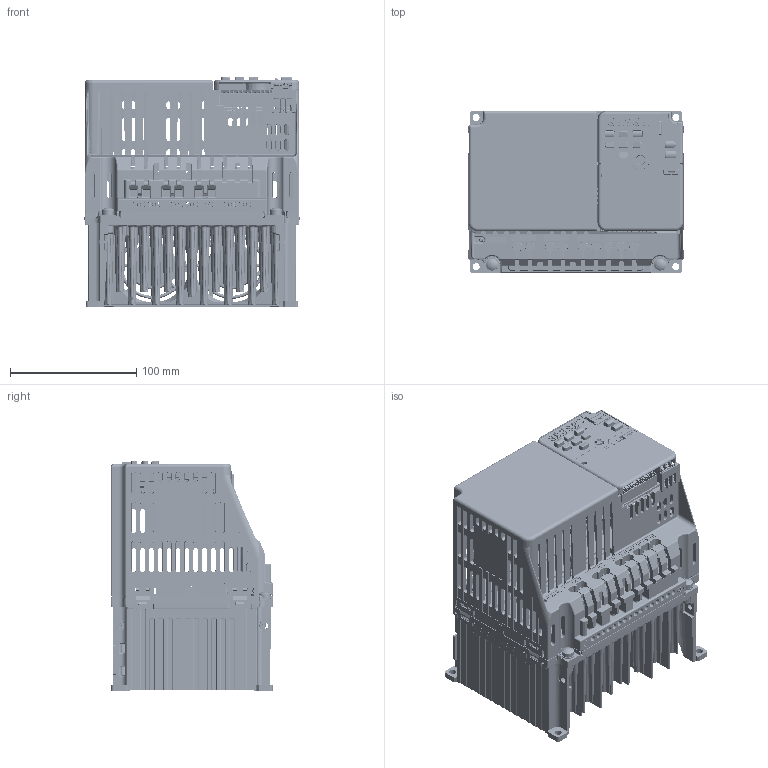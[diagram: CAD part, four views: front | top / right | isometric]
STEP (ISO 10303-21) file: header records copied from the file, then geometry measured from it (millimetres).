
FILE_DESCRIPTION((''),'2;1');
FILE_NAME('GA500_STD_FRAME_V4-A_ASM','2019-03-08T',('jam'),('YASKAWA ELECTRIC CORCORATION'),'PRO/ENGINEER BY PARAMETRIC TECHNOLOGY CORPORATION, 2015440','PRO/ENGINEER BY PARAMETRIC TECHNOLOGY CORPORATION, 2015440','');
FILE_SCHEMA(('CONFIG_CONTROL_DESIGN'));
Products named in the file (122): MAP_KIPR-GA50_Q_B018_1; 400-104-197_AF0_1; SCAT41166_1; 400-104-231_AF0_1; 2410ML-05W-B30-BQ7_1; CVST31335_1; 400-104-273-01B-1_6PCB_AF0_1; MKDS10HV_2-ZB-10P16_1; MKDS10HV_5-ZB-10P16_1; KTP761363_6PCB_AF0_ASM_1_ASM; 400-104-158_AF0_1; 400-104-023-01F-5_1; 95003-2884_1; B12B-PASK-1_1; MANIFOLD_SOLID_BREP_528374; MANIFOLD_SOLID_BREP_528525; MANIFOLD_SOLID_BREP_528676; MANIFOLD_SOLID_BREP_528827; MANIFOLD_SOLID_BREP_528980; MANIFOLD_SOLID_BREP_529131; MANIFOLD_SOLID_BREP_529282; MANIFOLD_SOLID_BREP_529433; MANIFOLD_SOLID_BREP_529584; MANIFOLD_SOLID_BREP_529735; MANIFOLD_SOLID_BREP_529886; 1734753-1_AF1_1_ASM; MANIFOLD_SOLID_BREP_539805; MANIFOLD_SOLID_BREP_539989; MANIFOLD_SOLID_BREP_540173; MANIFOLD_SOLID_BREP_540357; MANIFOLD_SOLID_BREP_540541; MANIFOLD_SOLID_BREP_540692; MANIFOLD_SOLID_BREP_540843; MANIFOLD_SOLID_BREP_540994; MANIFOLD_SOLID_BREP_541145; MANIFOLD_SOLID_BREP_541296; MANIFOLD_SOLID_BREP_541447; MANIFOLD_SOLID_BREP_541598; MANIFOLD_SOLID_BREP_541749; MANIFOLD_SOLID_BREP_541900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
Assembly tree (125 placements, depth 6):
  GA500_STD_FRAME_V4-A_ASM
    KIPR-GA50_Q_B018_ASM_1_ASM
      MAP_KIPR-GA50_Q_B018_1
      400-104-197_AF0_1
      SCAT41166_1  x2
      400-104-231_AF0_1
      2410ML-05W-B30-BQ7_1  x2
      CVST31335_1
      KTP761363_6PCB_AF0_ASM_1_ASM
        400-104-273-01B-1_6PCB_AF0_1
        MKDS10HV_2-ZB-10P16_1  x2
        MKDS10HV_5-ZB-10P16_1
      400-104-158_AF0_1
      KTC750050-SXXXX_ASM_1_ASM
        400-104-023-01F-5_1
        95003-2884_1
        B12B-PASK-1_1
        1734753-1_AF1_1_ASM
          MANIFOLD_SOLID_BREP_528374
          MANIFOLD_SOLID_BREP_528525
          MANIFOLD_SOLID_BREP_528676
          MANIFOLD_SOLID_BREP_528827
          MANIFOLD_SOLID_BREP_528980
          MANIFOLD_SOLID_BREP_529131
          MANIFOLD_SOLID_BREP_529282
          MANIFOLD_SOLID_BREP_529433
          MANIFOLD_SOLID_BREP_529584
          MANIFOLD_SOLID_BREP_529735
          MANIFOLD_SOLID_BREP_529886
        DHB-PD20-S131N-4P9_AF1_1_ASM
          MANIFOLD_SOLID_BREP_539805
          MANIFOLD_SOLID_BREP_539989
          MANIFOLD_SOLID_BREP_540173
          MANIFOLD_SOLID_BREP_540357
          MANIFOLD_SOLID_BREP_540541
          MANIFOLD_SOLID_BREP_540692
          MANIFOLD_SOLID_BREP_540843
          MANIFOLD_SOLID_BREP_540994
          MANIFOLD_SOLID_BREP_541145
          MANIFOLD_SOLID_BREP_541296
          MANIFOLD_SOLID_BREP_541447
          MANIFOLD_SOLID_BREP_541598
          MANIFOLD_SOLID_BREP_541749
          MANIFOLD_SOLID_BREP_541900
          MANIFOLD_SOLID_BREP_542051
          MANIFOLD_SOLID_BREP_542202
          MANIFOLD_SOLID_BREP_542353
          MANIFOLD_SOLID_BREP_542504
          MANIFOLD_SOLID_BREP_542655
          MANIFOLD_SOLID_BREP_542806
          MANIFOLD_SOLID_BREP_542957
          MANIFOLD_SOLID_BREP_543108
          MANIFOLD_SOLID_BREP_543259
          MANIFOLD_SOLID_BREP_543410
          MANIFOLD_SOLID_BREP_543561
        KARI_SPTA1_9-3P5_AF0_1_ASM
          MANIFOLD_SOLID_BREP_550128
          MANIFOLD_SOLID_BREP_550279
          MANIFOLD_SOLID_BREP_550430
          MANIFOLD_SOLID_BREP_550581
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Bounding box: 170.19 x 128.4 x 182.75 mm (x, y, z)
Volume: 875084 mm3; surface area: 587869.1 mm2
Topology: 111 solids, 112 shells, 19297 faces, 52702 edges, 33684 vertices
Faces by surface type: plane 11532, cylinder 3892, bspline 1438, cone 1297, torus 863, sphere 275
Entity records: 676070 total; most frequent: CARTESIAN_POINT 205812, ORIENTED_EDGE 103040, DIRECTION 89406, EDGE_CURVE 51520, VECTOR 35132, LINE 35132, VERTEX_POINT 33089, AXIS2_PLACEMENT_3D 27137
